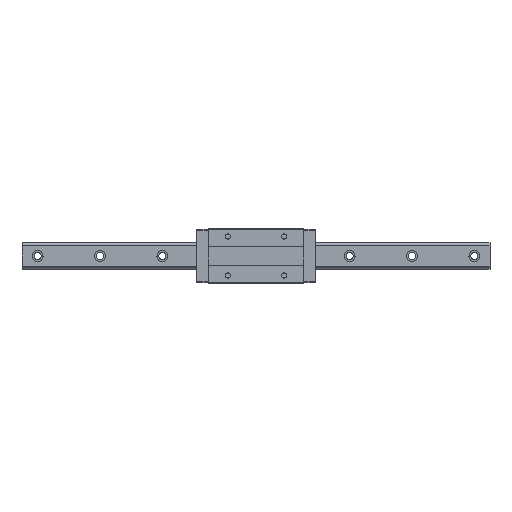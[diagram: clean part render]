
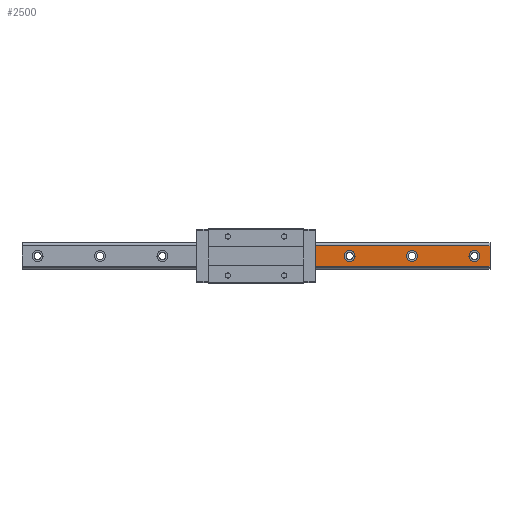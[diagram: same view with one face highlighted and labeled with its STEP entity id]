
A CAD part, top view. The second image highlights one B-rep face of the part: STEP entity #2500.
In plain terms, the highlighted planar face has unit normal (0, 0, 1).
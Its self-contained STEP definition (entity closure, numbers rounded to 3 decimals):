
#105 = DIRECTION ( 'NONE',  ( 0., 0., -1. ) ) ;
#135 = AXIS2_PLACEMENT_3D ( 'NONE', #4070, #371, #1980 ) ;
#348 = FACE_BOUND ( 'NONE', #655, .T. ) ;
#371 = DIRECTION ( 'NONE',  ( 0., 0., -1. ) ) ;
#411 = VERTEX_POINT ( 'NONE', #768 ) ;
#523 = EDGE_LOOP ( 'NONE', ( #2179, #3392 ) ) ;
#536 = CARTESIAN_POINT ( 'NONE',  ( 75.7, 13.408, 26. ) ) ;
#655 = EDGE_LOOP ( 'NONE', ( #3769, #3967 ) ) ;
#697 = CARTESIAN_POINT ( 'NONE',  ( 200., 0., 26. ) ) ;
#702 = DIRECTION ( 'NONE',  ( 0., 0., -1. ) ) ;
#768 = CARTESIAN_POINT ( 'NONE',  ( 193., 0., 26. ) ) ;
#827 = FACE_BOUND ( 'NONE', #523, .T. ) ;
#956 = VERTEX_POINT ( 'NONE', #4391 ) ;
#1026 = VERTEX_POINT ( 'NONE', #2410 ) ;
#1096 = DIRECTION ( 'NONE',  ( -1., 0., 0. ) ) ;
#1139 = DIRECTION ( 'NONE',  ( 0., 0., -1. ) ) ;
#1146 = EDGE_CURVE ( 'NONE', #2707, #956, #2321, .T. ) ;
#1180 = VERTEX_POINT ( 'NONE', #3940 ) ;
#1256 = CIRCLE ( 'NONE', #3211, 7. ) ;
#1323 = LINE ( 'NONE', #4492, #3914 ) ;
#1420 = EDGE_CURVE ( 'NONE', #1592, #956, #1323, .T. ) ;
#1540 = CARTESIAN_POINT ( 'NONE',  ( 280., 0., 26. ) ) ;
#1551 = VERTEX_POINT ( 'NONE', #4187 ) ;
#1573 = FACE_BOUND ( 'NONE', #2126, .T. ) ;
#1592 = VERTEX_POINT ( 'NONE', #4012 ) ;
#1661 = LINE ( 'NONE', #3291, #4914 ) ;
#1673 = AXIS2_PLACEMENT_3D ( 'NONE', #697, #1139, #1894 ) ;
#1688 = AXIS2_PLACEMENT_3D ( 'NONE', #1738, #105, #4127 ) ;
#1703 = DIRECTION ( 'NONE',  ( 0., -1., 0. ) ) ;
#1738 = CARTESIAN_POINT ( 'NONE',  ( 200., 0., 26. ) ) ;
#1781 = ORIENTED_EDGE ( 'NONE', *, *, #4936, .T. ) ;
#1863 = EDGE_CURVE ( 'NONE', #4332, #1180, #3470, .T. ) ;
#1894 = DIRECTION ( 'NONE',  ( -1., 0., 0. ) ) ;
#1980 = DIRECTION ( 'NONE',  ( 0., -1., 0. ) ) ;
#1982 = EDGE_CURVE ( 'NONE', #1592, #5140, #2383, .T. ) ;
#2058 = VERTEX_POINT ( 'NONE', #4443 ) ;
#2126 = EDGE_LOOP ( 'NONE', ( #2615, #1781 ) ) ;
#2179 = ORIENTED_EDGE ( 'NONE', *, *, #3463, .T. ) ;
#2218 = EDGE_CURVE ( 'NONE', #1180, #4332, #1256, .T. ) ;
#2321 = LINE ( 'NONE', #4221, #3487 ) ;
#2350 = DIRECTION ( 'NONE',  ( -1., 0., 0. ) ) ;
#2383 = LINE ( 'NONE', #2866, #4100 ) ;
#2410 = CARTESIAN_POINT ( 'NONE',  ( 207., 0., 26. ) ) ;
#2458 = PLANE ( 'NONE',  #135 ) ;
#2500 = ADVANCED_FACE ( 'NONE', ( #1573, #827, #348, #4846 ), #2458, .F. ) ;
#2538 = AXIS2_PLACEMENT_3D ( 'NONE', #1540, #3640, #5227 ) ;
#2568 = DIRECTION ( 'NONE',  ( 0., 0., -1. ) ) ;
#2615 = ORIENTED_EDGE ( 'NONE', *, *, #2885, .T. ) ;
#2707 = VERTEX_POINT ( 'NONE', #5040 ) ;
#2866 = CARTESIAN_POINT ( 'NONE',  ( 300., 13.408, 26. ) ) ;
#2885 = EDGE_CURVE ( 'NONE', #1551, #2058, #3464, .T. ) ;
#2962 = CARTESIAN_POINT ( 'NONE',  ( 120., 0., 26. ) ) ;
#3178 = DIRECTION ( 'NONE',  ( -1., 0., 0. ) ) ;
#3211 = AXIS2_PLACEMENT_3D ( 'NONE', #2962, #2568, #4172 ) ;
#3291 = CARTESIAN_POINT ( 'NONE',  ( 75.7, -13.408, 26. ) ) ;
#3350 = ORIENTED_EDGE ( 'NONE', *, *, #1982, .T. ) ;
#3385 = CARTESIAN_POINT ( 'NONE',  ( 120., 0., 26. ) ) ;
#3392 = ORIENTED_EDGE ( 'NONE', *, *, #5251, .T. ) ;
#3440 = EDGE_CURVE ( 'NONE', #2707, #5140, #1661, .T. ) ;
#3463 = EDGE_CURVE ( 'NONE', #1026, #411, #3808, .T. ) ;
#3464 = CIRCLE ( 'NONE', #2538, 7. ) ;
#3470 = CIRCLE ( 'NONE', #3726, 7. ) ;
#3487 = VECTOR ( 'NONE', #4735, 1000. ) ;
#3552 = CARTESIAN_POINT ( 'NONE',  ( 280., 0., 26. ) ) ;
#3640 = DIRECTION ( 'NONE',  ( 0., 0., -1. ) ) ;
#3726 = AXIS2_PLACEMENT_3D ( 'NONE', #3385, #702, #2350 ) ;
#3769 = ORIENTED_EDGE ( 'NONE', *, *, #2218, .T. ) ;
#3808 = CIRCLE ( 'NONE', #1688, 7. ) ;
#3912 = ORIENTED_EDGE ( 'NONE', *, *, #3440, .F. ) ;
#3914 = VECTOR ( 'NONE', #1703, 1000. ) ;
#3922 = DIRECTION ( 'NONE',  ( 0., 0., -1. ) ) ;
#3930 = CARTESIAN_POINT ( 'NONE',  ( 113., 0., 26. ) ) ;
#3940 = CARTESIAN_POINT ( 'NONE',  ( 127., 0., 26. ) ) ;
#3967 = ORIENTED_EDGE ( 'NONE', *, *, #1863, .T. ) ;
#4012 = CARTESIAN_POINT ( 'NONE',  ( 300., 13.408, 26. ) ) ;
#4070 = CARTESIAN_POINT ( 'NONE',  ( 300., 0., 26. ) ) ;
#4100 = VECTOR ( 'NONE', #3178, 1000. ) ;
#4127 = DIRECTION ( 'NONE',  ( -1., 0., 0. ) ) ;
#4172 = DIRECTION ( 'NONE',  ( -1., 0., 0. ) ) ;
#4187 = CARTESIAN_POINT ( 'NONE',  ( 287., 0., 26. ) ) ;
#4221 = CARTESIAN_POINT ( 'NONE',  ( 300., -13.408, 26. ) ) ;
#4264 = ORIENTED_EDGE ( 'NONE', *, *, #1420, .F. ) ;
#4288 = AXIS2_PLACEMENT_3D ( 'NONE', #3552, #3922, #1096 ) ;
#4332 = VERTEX_POINT ( 'NONE', #3930 ) ;
#4391 = CARTESIAN_POINT ( 'NONE',  ( 300., -13.408, 26. ) ) ;
#4443 = CARTESIAN_POINT ( 'NONE',  ( 273., 0., 26. ) ) ;
#4470 = CIRCLE ( 'NONE', #1673, 7. ) ;
#4492 = CARTESIAN_POINT ( 'NONE',  ( 300., 13.6, 26. ) ) ;
#4735 = DIRECTION ( 'NONE',  ( 1., 0., 0. ) ) ;
#4810 = CIRCLE ( 'NONE', #4288, 7. ) ;
#4845 = EDGE_LOOP ( 'NONE', ( #3350, #3912, #5136, #4264 ) ) ;
#4846 = FACE_OUTER_BOUND ( 'NONE', #4845, .T. ) ;
#4904 = DIRECTION ( 'NONE',  ( 0., 1., 0. ) ) ;
#4914 = VECTOR ( 'NONE', #4904, 1000. ) ;
#4936 = EDGE_CURVE ( 'NONE', #2058, #1551, #4810, .T. ) ;
#5040 = CARTESIAN_POINT ( 'NONE',  ( 75.7, -13.408, 26. ) ) ;
#5136 = ORIENTED_EDGE ( 'NONE', *, *, #1146, .T. ) ;
#5140 = VERTEX_POINT ( 'NONE', #536 ) ;
#5227 = DIRECTION ( 'NONE',  ( -1., 0., 0. ) ) ;
#5251 = EDGE_CURVE ( 'NONE', #411, #1026, #4470, .T. ) ;
